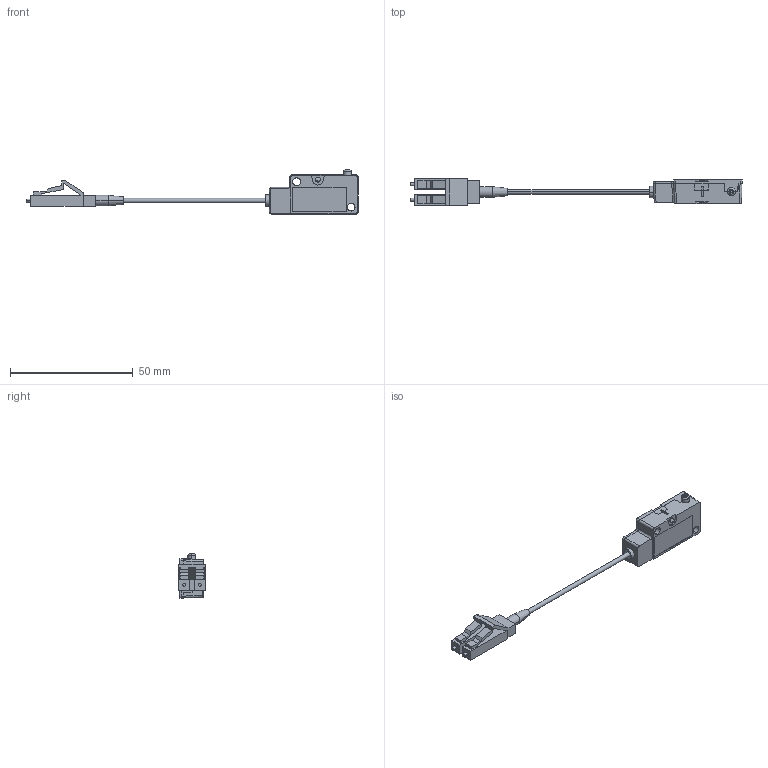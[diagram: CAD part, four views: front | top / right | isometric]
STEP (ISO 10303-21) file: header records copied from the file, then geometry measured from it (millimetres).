
FILE_DESCRIPTION (( 'STEP AP214' ), '1' );
FILE_NAME ('MR386.STEP', '2016-04-28T18:37:54', ( '' ), ( '' ), 'SwSTEP 2.0', 'SolidWorks 2016', '' );
FILE_SCHEMA (( 'AUTOMOTIVE_DESIGN' ));
Length unit declared in the file: inch
Products named in the file (1): MR386
Bounding box: 135.28 x 10.77 x 17.93 mm (x, y, z)
Volume: 4482.8 mm3; surface area: 6700.6 mm2
Topology: 6 solids, 6 shells, 644 faces, 1764 edges, 1168 vertices
Faces by surface type: plane 378, bspline 122, cylinder 85, cone 28, torus 23, sphere 8
Entity records: 35139 total; most frequent: CARTESIAN_POINT 11026, ORIENTED_EDGE 3528, DIRECTION 2783, EDGE_CURVE 1764, VERTEX_POINT 1168, LINE 1143, VECTOR 1143, AXIS2_PLACEMENT_3D 820
